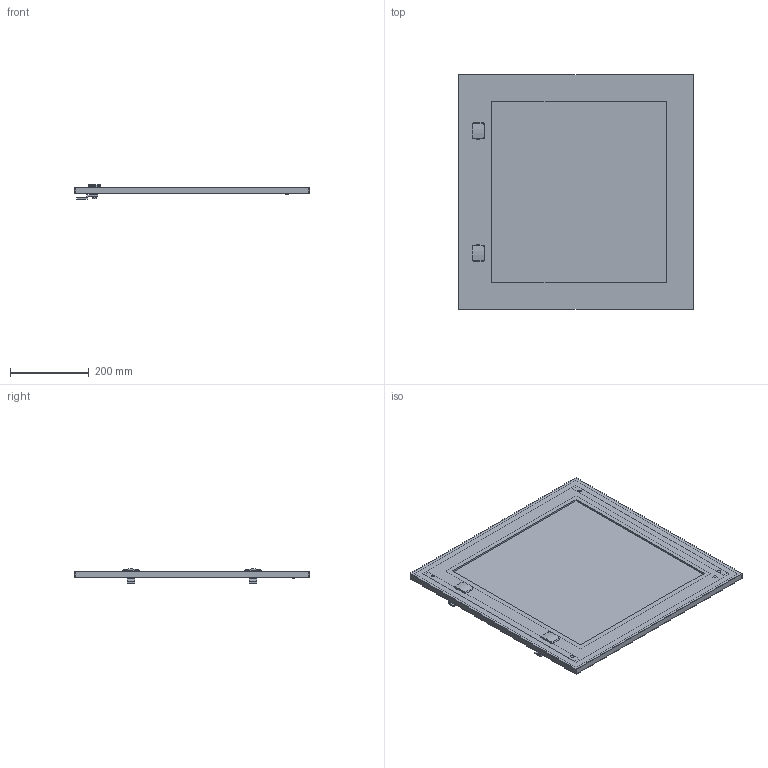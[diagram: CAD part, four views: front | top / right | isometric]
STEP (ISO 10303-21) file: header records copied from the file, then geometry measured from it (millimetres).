
FILE_DESCRIPTION( ( 'STEP AP214' ), '1' );
FILE_NAME( 'p:/temp/worker_90/temp/exporttempdir_3508_58_mEpdJ/format_0/ADC06060R5(0).stp', '2021-03-15T11:59:09', ( 'License CC BY-ND 4.0' ), ( 'CADENAS' ), ' ', 'PARTsolutions', ' ' );
FILE_SCHEMA( ( 'AUTOMOTIVE_DESIGN { 1 0 10303 214 1 1 1 1 }' ) );
Length unit declared in the file: millimetre
Products named in the file (4): ADC06060R5(0); _ADT ADC ADS 06060(0); _ALL503(0,0); _ADT ADC ADS 06060_glass
Assembly tree (4 placements, depth 2):
  ADC06060R5(0)
    _ADT ADC ADS 06060(0)
    _ALL503(0,0)  x2
    _ADT ADC ADS 06060_glass
Bounding box: 595 x 595 x 36.13 mm (x, y, z)
Volume: 1357682.9 mm3; surface area: 952152.8 mm2
Topology: 4 solids, 4 shells, 305 faces, 778 edges, 510 vertices
Faces by surface type: plane 208, cylinder 70, cone 23, torus 4
Full cylindrical faces by diameter (mm): 6 x4, 6.5 x2, 7 x4, 8 x1, 14 x1, 18 x2, 27 x2
Entity records: 9009 total; most frequent: CARTESIAN_POINT 1368, DIRECTION 1145, ORIENTED_EDGE 1136, EDGE_CURVE 568, LINE 413, VECTOR 413, VERTEX_POINT 391, AXIS2_PLACEMENT_3D 366
